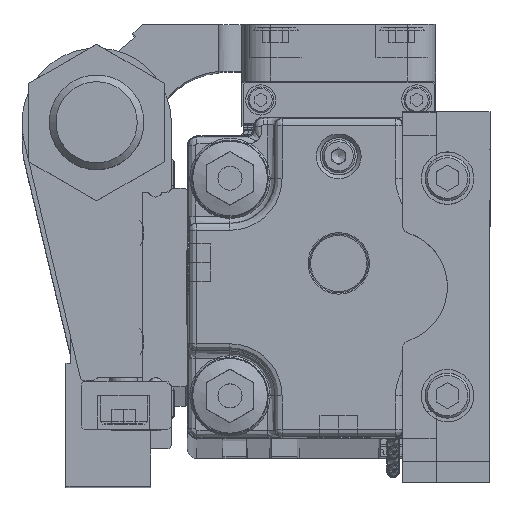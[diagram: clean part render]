
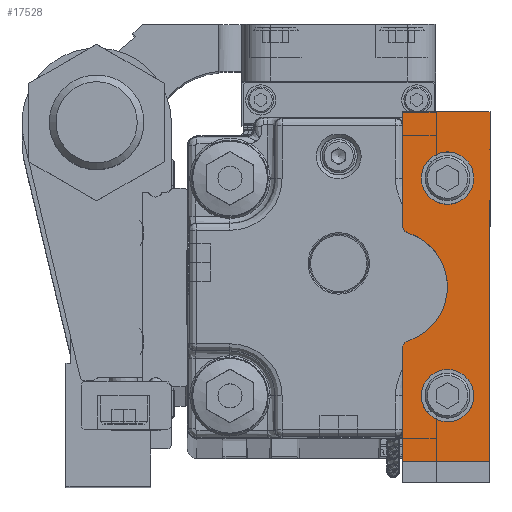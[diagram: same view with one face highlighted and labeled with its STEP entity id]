
A CAD part, top view. The second image highlights one B-rep face of the part: STEP entity #17528.
In plain terms, the highlighted planar face has unit normal (0, 0, 1).
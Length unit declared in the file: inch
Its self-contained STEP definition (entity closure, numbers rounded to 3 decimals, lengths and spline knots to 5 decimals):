
#1205 = CARTESIAN_POINT ( 'NONE',  ( -1.45669, -0.82677, 0.94488 ) ) ;
#1864 = VERTEX_POINT ( 'NONE', #47551 ) ;
#3242 = VECTOR ( 'NONE', #59515, 39.37008 ) ;
#4947 = CARTESIAN_POINT ( 'NONE',  ( 1.1245, -0.47294, 0.94488 ) ) ;
#5239 = AXIS2_PLACEMENT_3D ( 'NONE', #24169, #44426, #38784 ) ;
#5365 = CARTESIAN_POINT ( 'NONE',  ( -1.45669, -0.82677, 0.94488 ) ) ;
#7085 = AXIS2_PLACEMENT_3D ( 'NONE', #17681, #17351, #37925 ) ;
#8873 = ORIENTED_EDGE ( 'NONE', *, *, #63074, .T. ) ;
#9106 = CARTESIAN_POINT ( 'NONE',  ( 1.45669, -0.09843, 0.94488 ) ) ;
#9755 = ORIENTED_EDGE ( 'NONE', *, *, #14195, .T. ) ;
#12515 = CARTESIAN_POINT ( 'NONE',  ( -0.50763, -0.15748, 0.94488 ) ) ;
#12684 = EDGE_CURVE ( 'NONE', #29412, #38325, #37071, .T. ) ;
#13985 = CARTESIAN_POINT ( 'NONE',  ( 0.906, -0.47294, 0.94488 ) ) ;
#14007 = CARTESIAN_POINT ( 'NONE',  ( -1.45669, -0.09843, 0.94488 ) ) ;
#14195 = EDGE_CURVE ( 'NONE', #38325, #28662, #19823, .T. ) ;
#15417 = VERTEX_POINT ( 'NONE', #35981 ) ;
#16323 = EDGE_CURVE ( 'NONE', #21845, #21845, #43221, .T. ) ;
#17351 = DIRECTION ( 'NONE',  ( 0., 0., 1. ) ) ;
#17528 = ADVANCED_FACE ( 'NONE', ( #23507, #29499, #43763 ), #18542, .T. ) ;
#17681 = CARTESIAN_POINT ( 'NONE',  ( 0.50763, -0.15748, 0.94488 ) ) ;
#18542 = PLANE ( 'NONE',  #5239 ) ;
#19488 = CARTESIAN_POINT ( 'NONE',  ( -0.906, -0.47294, 0.94488 ) ) ;
#19823 = CIRCLE ( 'NONE', #7085, 0.05906 ) ;
#21845 = VERTEX_POINT ( 'NONE', #25293 ) ;
#21999 = CARTESIAN_POINT ( 'NONE',  ( 0., 0., 0.94488 ) ) ;
#22135 = CARTESIAN_POINT ( 'NONE',  ( 1.45669, -0.09843, 0.94488 ) ) ;
#22800 = CARTESIAN_POINT ( 'NONE',  ( 1.45669, -0.82677, 0.94488 ) ) ;
#23077 = AXIS2_PLACEMENT_3D ( 'NONE', #19488, #53706, #64314 ) ;
#23436 = CARTESIAN_POINT ( 'NONE',  ( 1.45669, -0.82677, 0.94488 ) ) ;
#23463 = AXIS2_PLACEMENT_3D ( 'NONE', #12515, #57973, #48349 ) ;
#23507 = FACE_BOUND ( 'NONE', #26787, .T. ) ;
#24169 = CARTESIAN_POINT ( 'NONE',  ( 0., 0., 0.94488 ) ) ;
#24219 = VECTOR ( 'NONE', #51008, 39.37008 ) ;
#24635 = EDGE_CURVE ( 'NONE', #28662, #15417, #34822, .T. ) ;
#25293 = CARTESIAN_POINT ( 'NONE',  ( -0.6875, -0.47294, 0.94488 ) ) ;
#25557 = AXIS2_PLACEMENT_3D ( 'NONE', #13985, #28933, #29266 ) ;
#25715 = CARTESIAN_POINT ( 'NONE',  ( 0.45123, -0.13998, 0.94488 ) ) ;
#26787 = EDGE_LOOP ( 'NONE', ( #45288 ) ) ;
#27190 = VECTOR ( 'NONE', #33726, 39.37008 ) ;
#27270 = ORIENTED_EDGE ( 'NONE', *, *, #52809, .T. ) ;
#27677 = CIRCLE ( 'NONE', #23463, 0.05906 ) ;
#28662 = VERTEX_POINT ( 'NONE', #25715 ) ;
#28694 = CARTESIAN_POINT ( 'NONE',  ( 0.50763, -0.09843, 0.94488 ) ) ;
#28933 = DIRECTION ( 'NONE',  ( 0., 0., 1. ) ) ;
#29211 = VECTOR ( 'NONE', #42384, 39.37008 ) ;
#29266 = DIRECTION ( 'NONE',  ( 1., 0., 0. ) ) ;
#29412 = VERTEX_POINT ( 'NONE', #9106 ) ;
#29499 = FACE_BOUND ( 'NONE', #54267, .T. ) ;
#31286 = VERTEX_POINT ( 'NONE', #5365 ) ;
#31578 = EDGE_CURVE ( 'NONE', #1864, #31286, #55988, .T. ) ;
#32837 = ORIENTED_EDGE ( 'NONE', *, *, #31578, .T. ) ;
#32966 = CARTESIAN_POINT ( 'NONE',  ( -0.50763, -0.09843, 0.94488 ) ) ;
#33726 = DIRECTION ( 'NONE',  ( 0., 1., 0. ) ) ;
#34822 = CIRCLE ( 'NONE', #36893, 0.47244 ) ;
#35120 = ORIENTED_EDGE ( 'NONE', *, *, #12684, .T. ) ;
#35322 = VERTEX_POINT ( 'NONE', #32966 ) ;
#35372 = EDGE_LOOP ( 'NONE', ( #35120, #9755, #65257, #41263, #8873, #32837, #27270, #40147 ) ) ;
#35981 = CARTESIAN_POINT ( 'NONE',  ( -0.45123, -0.13998, 0.94488 ) ) ;
#36893 = AXIS2_PLACEMENT_3D ( 'NONE', #21999, #62174, #36944 ) ;
#36944 = DIRECTION ( 'NONE',  ( 1., 0., 0. ) ) ;
#37071 = LINE ( 'NONE', #22135, #29211 ) ;
#37925 = DIRECTION ( 'NONE',  ( 1., 0., 0. ) ) ;
#38325 = VERTEX_POINT ( 'NONE', #28694 ) ;
#38784 = DIRECTION ( 'NONE',  ( 1., 0., 0. ) ) ;
#40147 = ORIENTED_EDGE ( 'NONE', *, *, #48644, .T. ) ;
#41263 = ORIENTED_EDGE ( 'NONE', *, *, #51702, .T. ) ;
#42384 = DIRECTION ( 'NONE',  ( -1., 0., 0. ) ) ;
#43221 = CIRCLE ( 'NONE', #23077, 0.2185 ) ;
#43276 = LINE ( 'NONE', #63517, #3242 ) ;
#43362 = LINE ( 'NONE', #23436, #27190 ) ;
#43763 = FACE_OUTER_BOUND ( 'NONE', #35372, .T. ) ;
#44001 = ORIENTED_EDGE ( 'NONE', *, *, #16323, .F. ) ;
#44426 = DIRECTION ( 'NONE',  ( 0., 0., 1. ) ) ;
#45288 = ORIENTED_EDGE ( 'NONE', *, *, #52054, .F. ) ;
#45702 = CIRCLE ( 'NONE', #25557, 0.2185 ) ;
#47551 = CARTESIAN_POINT ( 'NONE',  ( -1.45669, -0.09843, 0.94488 ) ) ;
#48349 = DIRECTION ( 'NONE',  ( 1., 0., 0. ) ) ;
#48550 = LINE ( 'NONE', #14007, #56189 ) ;
#48644 = EDGE_CURVE ( 'NONE', #64400, #29412, #43362, .T. ) ;
#49104 = VERTEX_POINT ( 'NONE', #4947 ) ;
#51008 = DIRECTION ( 'NONE',  ( 0., -1., 0. ) ) ;
#51702 = EDGE_CURVE ( 'NONE', #15417, #35322, #27677, .T. ) ;
#52054 = EDGE_CURVE ( 'NONE', #49104, #49104, #45702, .T. ) ;
#52809 = EDGE_CURVE ( 'NONE', #31286, #64400, #43276, .T. ) ;
#53706 = DIRECTION ( 'NONE',  ( 0., 0., 1. ) ) ;
#54267 = EDGE_LOOP ( 'NONE', ( #44001 ) ) ;
#54511 = DIRECTION ( 'NONE',  ( -1., 0., 0. ) ) ;
#55988 = LINE ( 'NONE', #1205, #24219 ) ;
#56189 = VECTOR ( 'NONE', #54511, 39.37008 ) ;
#57973 = DIRECTION ( 'NONE',  ( 0., 0., 1. ) ) ;
#59515 = DIRECTION ( 'NONE',  ( 1., 0., 0. ) ) ;
#62174 = DIRECTION ( 'NONE',  ( 0., 0., -1. ) ) ;
#63074 = EDGE_CURVE ( 'NONE', #35322, #1864, #48550, .T. ) ;
#63517 = CARTESIAN_POINT ( 'NONE',  ( -1.45669, -0.82677, 0.94488 ) ) ;
#64314 = DIRECTION ( 'NONE',  ( 1., 0., 0. ) ) ;
#64400 = VERTEX_POINT ( 'NONE', #22800 ) ;
#65257 = ORIENTED_EDGE ( 'NONE', *, *, #24635, .T. ) ;
